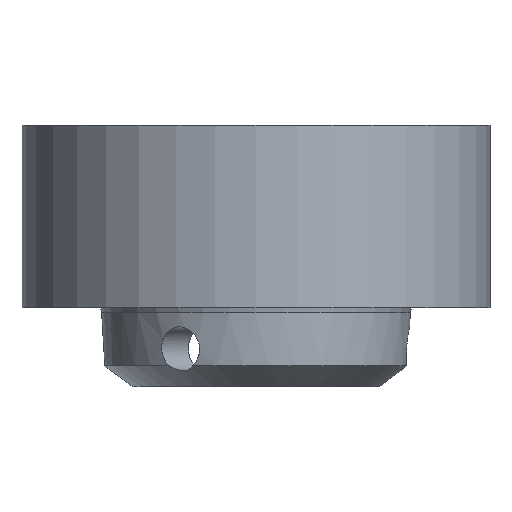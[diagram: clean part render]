
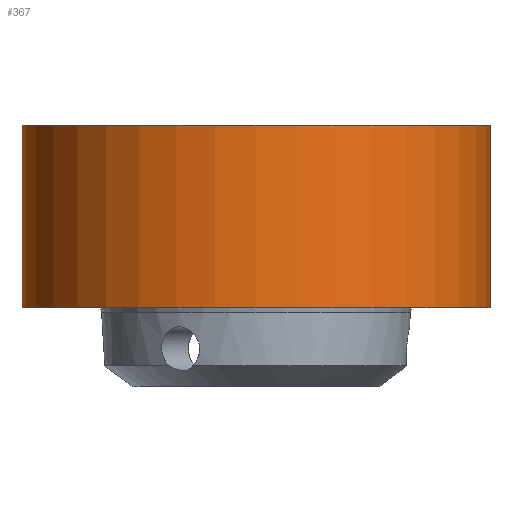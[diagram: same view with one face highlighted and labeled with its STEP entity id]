
A CAD part, left-side view. The second image highlights one B-rep face of the part: STEP entity #367.
In plain terms, the highlighted cylindrical face has radius 15 mm (diameter 30 mm), a full revolution.
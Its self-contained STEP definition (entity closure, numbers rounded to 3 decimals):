
#38=CYLINDRICAL_SURFACE('',#425,15.);
#46=FACE_BOUND('',#112,.T.);
#48=CIRCLE('',#392,15.);
#51=CIRCLE('',#396,15.);
#59=CIRCLE('',#410,15.);
#67=CIRCLE('',#426,15.);
#85=FACE_OUTER_BOUND('',#111,.T.);
#111=EDGE_LOOP('',(#330,#331,#332,#333));
#112=EDGE_LOOP('',(#334,#335,#336,#337));
#116=LINE('',#535,#135);
#123=LINE('',#560,#142);
#133=LINE('',#868,#152);
#135=VECTOR('',#434,10.);
#142=VECTOR('',#461,10.);
#152=VECTOR('',#523,15.);
#154=VERTEX_POINT('',#533);
#155=VERTEX_POINT('',#534);
#158=VERTEX_POINT('',#542);
#161=VERTEX_POINT('',#550);
#169=VERTEX_POINT('',#578);
#186=VERTEX_POINT('',#866);
#188=EDGE_CURVE('',#154,#155,#116,.T.);
#192=EDGE_CURVE('',#158,#154,#48,.T.);
#196=EDGE_CURVE('',#155,#161,#51,.T.);
#201=EDGE_CURVE('',#161,#158,#123,.T.);
#210=EDGE_CURVE('',#169,#169,#59,.T.);
#236=EDGE_CURVE('',#186,#186,#67,.T.);
#237=EDGE_CURVE('',#186,#169,#133,.T.);
#330=ORIENTED_EDGE('',*,*,#236,.F.);
#331=ORIENTED_EDGE('',*,*,#237,.T.);
#332=ORIENTED_EDGE('',*,*,#210,.T.);
#333=ORIENTED_EDGE('',*,*,#237,.F.);
#334=ORIENTED_EDGE('',*,*,#196,.T.);
#335=ORIENTED_EDGE('',*,*,#201,.T.);
#336=ORIENTED_EDGE('',*,*,#192,.T.);
#337=ORIENTED_EDGE('',*,*,#188,.T.);
#367=ADVANCED_FACE('',(#85,#46),#38,.T.);
#392=AXIS2_PLACEMENT_3D('',#543,#440,#441);
#396=AXIS2_PLACEMENT_3D('',#551,#449,#450);
#410=AXIS2_PLACEMENT_3D('',#579,#483,#484);
#425=AXIS2_PLACEMENT_3D('',#865,#519,#520);
#426=AXIS2_PLACEMENT_3D('',#867,#521,#522);
#434=DIRECTION('',(0.,0.,-1.));
#440=DIRECTION('center_axis',(0.,0.,
1.));
#441=DIRECTION('ref_axis',(0.,-1.,0.));
#449=DIRECTION('center_axis',(0.,0.,
-1.));
#450=DIRECTION('ref_axis',(0.,-1.,0.));
#461=DIRECTION('',(0.,0.,1.));
#483=DIRECTION('center_axis',(0.,0.,
-1.));
#484=DIRECTION('ref_axis',(1.,0.,0.));
#519=DIRECTION('center_axis',(0.,0.,
-1.));
#520=DIRECTION('ref_axis',(0.,-1.,0.));
#521=DIRECTION('center_axis',(0.,0.,
-1.));
#522=DIRECTION('ref_axis',(1.,0.,0.));
#523=DIRECTION('',(0.,0.,1.));
#533=CARTESIAN_POINT('',(22.483,55.,7.));
#534=CARTESIAN_POINT('',(22.483,55.,3.));
#535=CARTESIAN_POINT('',(22.483,55.,5.65));
#542=CARTESIAN_POINT('',(22.483,29.,7.));
#543=CARTESIAN_POINT('Origin',(15.,42.,7.));
#550=CARTESIAN_POINT('',(22.483,29.,3.));
#551=CARTESIAN_POINT('Origin',(15.,42.,3.));
#560=CARTESIAN_POINT('',(22.483,29.,5.65));
#578=CARTESIAN_POINT('',(15.,57.,11.5));
#579=CARTESIAN_POINT('Origin',(15.,42.,11.5));
#865=CARTESIAN_POINT('Origin',(15.,42.,5.65));
#866=CARTESIAN_POINT('',(15.,57.,-0.2));
#867=CARTESIAN_POINT('Origin',(15.,42.,-0.2));
#868=CARTESIAN_POINT('',(15.,57.,5.65));
